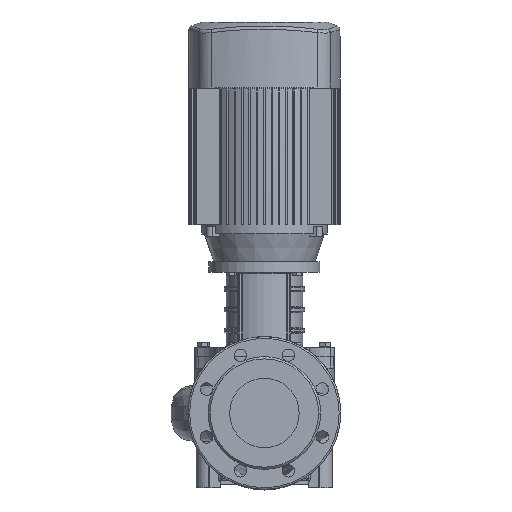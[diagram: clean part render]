
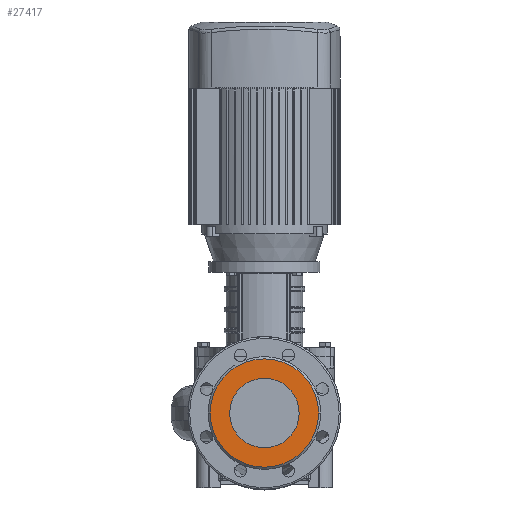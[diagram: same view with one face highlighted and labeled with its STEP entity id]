
A CAD part, top view. The second image highlights one B-rep face of the part: STEP entity #27417.
In plain terms, the highlighted planar face has unit normal (0, 0, 1).
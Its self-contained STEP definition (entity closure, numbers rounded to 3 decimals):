
#254 = CARTESIAN_POINT ( 'NONE',  ( -50., 0., 225. ) ) ;
#1862 = CARTESIAN_POINT ( 'NONE',  ( 50., 0., 225. ) ) ;
#2242 = AXIS2_PLACEMENT_3D ( 'NONE', #12020, #38792, #31583 ) ;
#2789 = AXIS2_PLACEMENT_3D ( 'NONE', #5908, #24934, #13361 ) ;
#3849 = DIRECTION ( 'NONE',  ( 0., 0., 1. ) ) ;
#4422 = CARTESIAN_POINT ( 'NONE',  ( -78., 0., 225. ) ) ;
#5908 = CARTESIAN_POINT ( 'NONE',  ( 0., 0., 225. ) ) ;
#7611 = VERTEX_POINT ( 'NONE', #10110 ) ;
#9409 = VERTEX_POINT ( 'NONE', #254 ) ;
#9693 = FACE_BOUND ( 'NONE', #38693, .T. ) ;
#9964 = CARTESIAN_POINT ( 'NONE',  ( 0., 78., 225. ) ) ;
#10110 = CARTESIAN_POINT ( 'NONE',  ( 78., 0., 225. ) ) ;
#10165 = CIRCLE ( 'NONE', #2789, 50. ) ;
#10495 = EDGE_CURVE ( 'NONE', #23943, #9409, #31190, .T. ) ;
#11166 = EDGE_CURVE ( 'NONE', #7611, #24435, #46003, .T. ) ;
#11310 = DIRECTION ( 'NONE',  ( 1., 0., 0. ) ) ;
#12020 = CARTESIAN_POINT ( 'NONE',  ( 0., 0., 225. ) ) ;
#13133 = ORIENTED_EDGE ( 'NONE', *, *, #11166, .T. ) ;
#13361 = DIRECTION ( 'NONE',  ( 1., 0., 0. ) ) ;
#16215 = EDGE_CURVE ( 'NONE', #24435, #7611, #39194, .T. ) ;
#21774 = DIRECTION ( 'NONE',  ( 0., -1., 0. ) ) ;
#22004 = CARTESIAN_POINT ( 'NONE',  ( 0., 0., 225. ) ) ;
#23943 = VERTEX_POINT ( 'NONE', #1862 ) ;
#24435 = VERTEX_POINT ( 'NONE', #4422 ) ;
#24934 = DIRECTION ( 'NONE',  ( 0., 0., 1. ) ) ;
#25379 = DIRECTION ( 'NONE',  ( 0., 0., -1. ) ) ;
#25870 = EDGE_LOOP ( 'NONE', ( #49828, #13133 ) ) ;
#27417 = ADVANCED_FACE ( 'NONE', ( #44906, #9693 ), #41318, .F. ) ;
#31190 = CIRCLE ( 'NONE', #32844, 50. ) ;
#31583 = DIRECTION ( 'NONE',  ( -1., 0., 0. ) ) ;
#32844 = AXIS2_PLACEMENT_3D ( 'NONE', #50648, #3849, #11310 ) ;
#33097 = DIRECTION ( 'NONE',  ( -1., 0., 0. ) ) ;
#33592 = DIRECTION ( 'NONE',  ( 0., 0., 1. ) ) ;
#36518 = ORIENTED_EDGE ( 'NONE', *, *, #10495, .F. ) ;
#36943 = AXIS2_PLACEMENT_3D ( 'NONE', #22004, #33592, #33097 ) ;
#37925 = EDGE_CURVE ( 'NONE', #9409, #23943, #10165, .T. ) ;
#38693 = EDGE_LOOP ( 'NONE', ( #36518, #45890 ) ) ;
#38792 = DIRECTION ( 'NONE',  ( 0., 0., 1. ) ) ;
#39194 = CIRCLE ( 'NONE', #2242, 78. ) ;
#41318 = PLANE ( 'NONE',  #44478 ) ;
#44478 = AXIS2_PLACEMENT_3D ( 'NONE', #9964, #25379, #21774 ) ;
#44906 = FACE_OUTER_BOUND ( 'NONE', #25870, .T. ) ;
#45890 = ORIENTED_EDGE ( 'NONE', *, *, #37925, .F. ) ;
#46003 = CIRCLE ( 'NONE', #36943, 78. ) ;
#49828 = ORIENTED_EDGE ( 'NONE', *, *, #16215, .T. ) ;
#50648 = CARTESIAN_POINT ( 'NONE',  ( 0., 0., 225. ) ) ;
